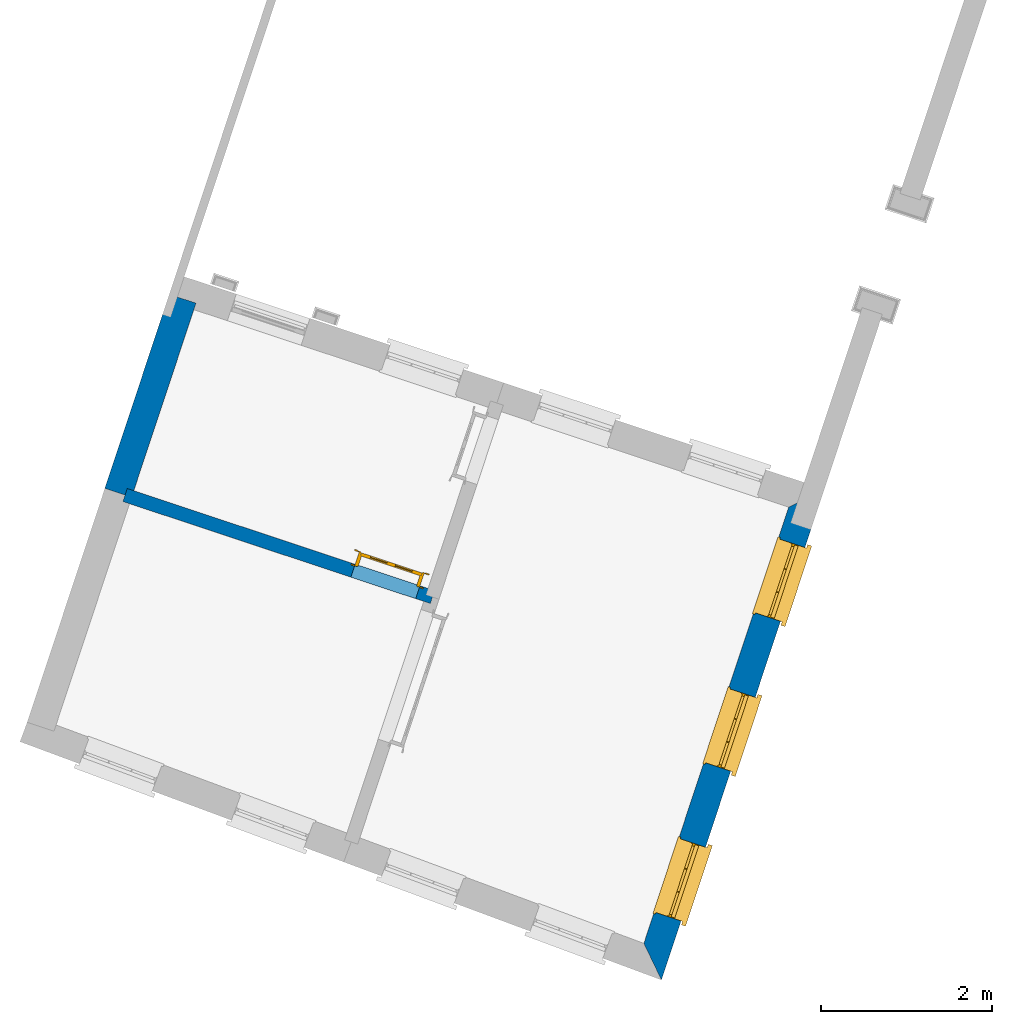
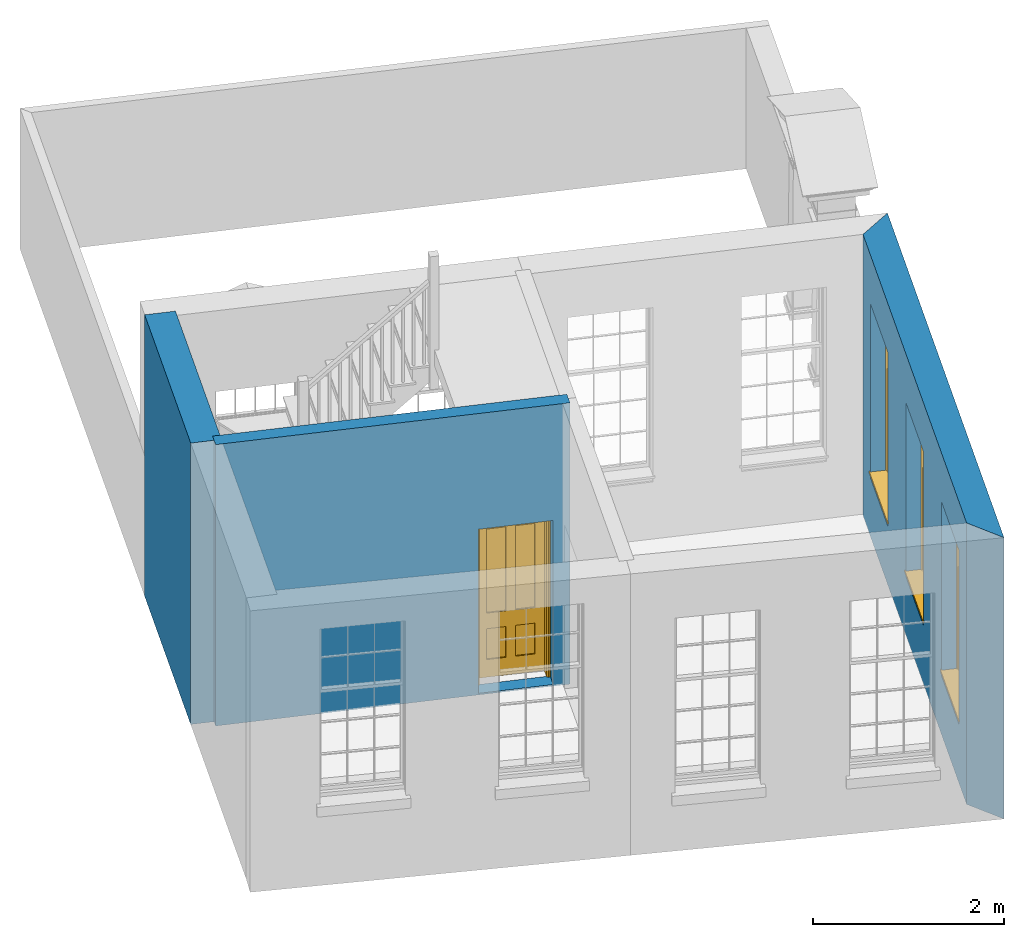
# One storey, part 3 of 6: 3 walls, 3 windows, 1 door, 4 openings.
"""IFC4 building model written with IfcOpenShell, lengths in metres."""

from ifc_helpers import new_model, si_unit, frame, origin, origin_with_axes, place, context, subcontext, project, spatial, polyline, outline, extrude, faceted_brep, source, transform, mapped, material, layer, layer_set, layer_usage, type_object, type_shapes, element, fill, save


model = new_model("IFC4")

# Units and contexts
model_context = context("Model", 3, world=origin_with_axes())
body_context = subcontext(model_context, "Body", "Model", "MODEL_VIEW")
ifc_project = project(units=[si_unit("PLANEANGLEUNIT", "RADIAN"), si_unit("MASSUNIT", "GRAM", prefix="KILO"), si_unit("FORCEUNIT", "NEWTON", prefix="KILO"), si_unit("LENGTHUNIT", "METRE"), si_unit("AREAUNIT", "SQUARE_METRE"), si_unit("VOLUMEUNIT", "CUBIC_METRE")], contexts=[model_context, model_context])

# Sites, building, storey
site_1_placement = place(None, origin_with_axes())
site_1 = spatial("IfcSite", under=ifc_project, at=site_1_placement, Name="Tamar")
site_2_placement = place(site_1_placement, origin_with_axes())
site_2 = spatial("IfcSite", under=site_1, at=site_2_placement, Name="Site plot-18", CompositionType="ELEMENT")
building_placement = place(None, origin_with_axes())
building = spatial("IfcBuilding", under=site_2, at=building_placement, Name="Building plot-18", CompositionType="ELEMENT")
storey_placement = place(None, frame((0.0, 0.0, 26.0), z_axis=(0.0, 0.0, 1.0), x_axis=(1.0, 0.0, 0.0)))
storey = spatial("IfcBuildingStorey", under=building, at=storey_placement, Name="plot-18 0", CompositionType="ELEMENT", Elevation=26.0)

# Wall, openings, windows
ifc_material_1 = material(Name="Masonry")
ifc_layer_1 = layer(ifc_material_1, 0.33, ventilated=False)
ifc_layer_set_1 = layer_set([ifc_layer_1], Name="exterior_0.08_0.25")
ifc_layer_usage_1 = layer_usage(ifc_layer_set_1, "AXIS2", "POSITIVE", -0.25)
wall_type_1 = type_object("IfcWallType", Name="exterior_0.08_0.25", PredefinedType="SOLIDWALL", material=ifc_layer_set_1)
wall_1_placement = place(storey_placement, frame((269.043337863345, 288.942822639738, 0.0), z_axis=(0.0, 0.0, 1.0), x_axis=(0.315038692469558, 0.949078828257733, 0.0)))
wall_1 = element("IfcWall", 1, at=wall_1_placement, inside=storey, type_object=wall_type_1, material=ifc_layer_usage_1, Name="exterior", context=body_context, shape_type="SweptSolid", body=[
    extrude(outline(polyline([(0.0828692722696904, 0.0799999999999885), (-0.258966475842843, -0.250000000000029), (5.79712578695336, -0.250000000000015), (5.46712578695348, 0.0800000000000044), (0.0828692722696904, 0.0799999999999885)])), origin_with_axes(), (0.0, 0.0, 1.0), 3.6),
])
opening_1_placement = place(wall_1_placement, frame((0.469520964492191, 0.0, 0.75)))
opening_1 = element("IfcOpeningElement", 2, at=opening_1_placement, cuts=wall_1, Name="My Opening", ObjectType="Opening", context=body_context, shape_type="SweptSolid", body=[
    extrude(outline(polyline([(0.0, -0.269999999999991), (0.910000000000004, -0.270000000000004), (0.909999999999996, 1.09999999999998), (-8.1601392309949e-15, 1.1), (0.0, -0.269999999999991)])), origin_with_axes(), (0.0, 0.0, 1.0), 2.23),
])
opening_2_placement = place(wall_1_placement, frame((2.31856289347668, 0.0, 0.75)))
opening_2 = element("IfcOpeningElement", 3, at=opening_2_placement, cuts=wall_1, Name="My Opening", ObjectType="Opening", context=body_context, shape_type="SweptSolid", body=[
    extrude(outline(polyline([(0.0, -0.270000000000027), (0.909999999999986, -0.269999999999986), (0.909999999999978, 1.1), (-7.99360577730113e-15, 1.09999999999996), (0.0, -0.270000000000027)])), origin_with_axes(), (0.0, 0.0, 1.0), 2.23),
])
opening_3_placement = place(wall_1_placement, frame((4.16760482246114, 0.0, 0.75)))
opening_3 = element("IfcOpeningElement", 4, at=opening_3_placement, cuts=wall_1, Name="My Opening", ObjectType="Opening", context=body_context, shape_type="SweptSolid", body=[
    extrude(outline(polyline([(0.0, -0.270000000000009), (0.910000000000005, -0.270000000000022), (0.909999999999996, 1.09999999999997), (-7.99360577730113e-15, 1.09999999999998), (0.0, -0.270000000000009)])), origin_with_axes(), (0.0, 0.0, 1.0), 2.23),
])
window_type = type_object("IfcWindowType", Name="sash_big_taller", PartitioningType="DOUBLE_PANEL_HORIZONTAL", PredefinedType="NOTDEFINED")
shared_shape_1 = source(origin(), body_context, "Body", "Brep", [
    faceted_brep([(0.033125, 0.145, 1.385209), (0.01, 0.145, 1.385209), (0.033125, 0.145, 1.786042), (0.876875, 0.145, 1.385209), (0.876875, 0.145, 1.786042), (0.9, 0.145, 1.385209), (0.876875, 0.145, 1.796042), (0.876875, 0.145, 2.196875), (0.9, 0.145, 2.22), (0.033125, 0.145, 2.196875), (0.033125, 0.145, 1.796042), (0.01, 0.145, 2.22), (0.876875, 0.115, 1.786042), (0.876875, 0.115, 1.385209), (0.9, 0.115, 1.347084), (0.033125, 0.115, 2.196875), (0.01, 0.115, 2.22), (0.033125, 0.115, 1.796042), (0.01, 0.115, 1.347084), (0.033125, 0.115, 1.385209), (0.033125, 0.115, 1.786042), (0.876875, 0.115, 2.196875), (0.876875, 0.115, 1.796042), (0.9, 0.115, 2.22), (0.033125, 0.145, 1.347084), (0.01, 0.145, 1.347084), (0.033125, 0.145, 0.94625), (0.876875, 0.145, 1.347084), (0.876875, 0.145, 0.94625), (0.9, 0.145, 1.347084), (0.876875, 0.145, 0.52625), (0.876875, 0.145, 0.125417), (0.9, 0.145, 0.077167), (0.033125, 0.145, 0.125417), (0.033125, 0.145, 0.52625), (0.01, 0.145, 0.077167), (-0.0425, 0.0, 0.01), (-0.0425, -0.05, 0.001667), (0.0, 0.0, 0.01), (0.9525, 0.0, 0.01), (0.91, 0.0, 0.01), (0.9525, -0.05, 0.001667), (-0.02, 0.33, 0.077167), (0.0, 0.33, 0.077167), (-0.02, 0.36, 0.077167), (0.0, 0.19, 0.077167), (0.01, 0.19, 0.077167), (0.91, 0.19, 0.077167), (0.91, 0.33, 0.077167), (0.9, 0.19, 0.077167), (0.93, 0.33, 0.077167), (0.93, 0.36, 0.077167), (0.01, 0.175, 1.385209), (0.9, 0.175, 1.385209), (0.876875, 0.175, 0.125417), (0.876875, 0.175, 0.52625), (0.9, 0.175, 0.077167), (0.876875, 0.175, 0.94625), (0.876875, 0.175, 1.347084), (0.033125, 0.175, 0.125417), (0.01, 0.175, 0.077167), (0.033125, 0.175, 0.52625), (0.033125, 0.175, 1.347084), (0.033125, 0.175, 0.94625), (-0.02, 0.33, 0.052167), (-0.02, 0.36, 0.052167), (0.93, 0.36, 0.052167), (0.93, 0.33, 0.052167), (0.91, 0.33, 0.052167), (0.0, 0.33, 0.052167), (0.91, 0.1, 0.026667), (0.0, 0.1, 0.026667), (-0.0425, -0.05, -0.123333), (0.9525, -0.05, -0.123333), (-0.0425, 0.0, -0.123333), (0.9525, 0.0, -0.123333), (0.01, 0.19, 2.22), (0.9, 0.19, 2.22), (0.0, 0.19, 2.23), (0.91, 0.19, 2.23), (0.01, 0.1, 0.077167), (0.9, 0.1, 0.077167), (0.592292, 0.145, 0.125417), (0.592292, 0.175, 0.125417), (0.317708, 0.175, 0.125417), (0.317708, 0.145, 0.125417), (0.592292, 0.145, 0.53625), (0.317708, 0.145, 0.53625), (0.317708, 0.145, 0.52625), (0.592292, 0.145, 0.52625), (0.592292, 0.175, 0.53625), (0.317708, 0.175, 0.53625), (0.592292, 0.115, 1.796042), (0.592292, 0.145, 1.796042), (0.317708, 0.145, 1.796042), (0.317708, 0.115, 1.796042), (0.317708, 0.115, 1.786042), (0.592292, 0.115, 1.786042), (0.317708, 0.145, 1.786042), (0.592292, 0.145, 1.786042), (0.602292, 0.115, 1.786042), (0.592292, 0.115, 1.385209), (0.602292, 0.115, 1.385209), (0.602292, 0.145, 1.385209), (0.592292, 0.145, 1.385209), (0.602292, 0.145, 1.786042), (0.876875, 0.145, 0.53625), (0.876875, 0.175, 0.53625), (0.602292, 0.175, 0.53625), (0.602292, 0.145, 0.53625), (0.317708, 0.175, 0.52625), (0.307708, 0.175, 0.125417), (0.307708, 0.175, 0.52625), (0.602292, 0.175, 0.52625), (0.602292, 0.175, 0.125417), (0.592292, 0.175, 0.52625), (0.307708, 0.175, 0.53625), (0.033125, 0.175, 0.53625), (0.317708, 0.175, 1.347084), (0.317708, 0.175, 0.94625), (0.307708, 0.175, 0.94625), (0.307708, 0.175, 1.347084), (0.602292, 0.175, 1.347084), (0.602292, 0.175, 0.94625), (0.592292, 0.175, 0.94625), (0.592292, 0.175, 1.347084), (0.307708, 0.145, 0.52625), (0.307708, 0.145, 0.125417), (0.307708, 0.145, 0.53625), (0.033125, 0.145, 0.53625), (0.307708, 0.145, 1.347084), (0.307708, 0.145, 0.94625), (0.592292, 0.145, 1.347084), (0.592292, 0.145, 0.94625), (0.317708, 0.145, 0.94625), (0.317708, 0.145, 1.347084), (0.602292, 0.145, 0.94625), (0.602292, 0.145, 1.347084), (0.602292, 0.145, 0.52625), (0.602292, 0.145, 0.125417), (0.307708, 0.115, 1.796042), (0.307708, 0.115, 1.786042), (0.307708, 0.115, 1.385209), (0.317708, 0.115, 1.385209), (0.317708, 0.115, 2.196875), (0.307708, 0.115, 2.196875), (0.602292, 0.115, 2.196875), (0.592292, 0.115, 2.196875), (0.602292, 0.115, 1.796042), (0.602292, 0.145, 1.796042), (0.307708, 0.145, 1.796042), (0.307708, 0.145, 2.196875), (0.317708, 0.145, 2.196875), (0.592292, 0.145, 2.196875), (0.602292, 0.145, 2.196875), (0.307708, 0.145, 1.786042), (0.317708, 0.145, 1.385209), (0.307708, 0.145, 1.385209), (0.876875, 0.175, 0.93625), (0.033125, 0.175, 0.93625), (0.033125, 0.145, 0.93625), (0.876875, 0.145, 0.93625), (0.91, 0.1, 2.23), (0.9, 0.1, 2.22), (0.01, 0.1, 2.22), (0.0, 0.1, 2.23), (0.91, 0.0, 0.0), (0.0, 0.0, 0.0), (0.91, 0.33, 0.0), (0.0, 0.33, 0.0), (0.317708, 0.145, 0.93625), (0.592292, 0.145, 0.93625), (0.317708, 0.175, 0.93625), (0.307708, 0.175, 0.93625), (0.602292, 0.175, 0.93625), (0.592292, 0.175, 0.93625), (0.307708, 0.145, 0.93625), (0.602292, 0.145, 0.93625)], [[[0, 1, 2]], [[3, 4, 5]], [[6, 7, 8]], [[9, 10, 11]], [[12, 13, 14]], [[15, 16, 17]], [[18, 19, 20]], [[21, 22, 23]], [[24, 25, 26]], [[27, 28, 29]], [[30, 31, 32]], [[33, 34, 35]], [[14, 27, 29]], [[25, 24, 18]], [[36, 37, 38]], [[39, 40, 41]], [[42, 43, 44]], [[45, 46, 43]], [[47, 48, 49]], [[50, 51, 48]], [[1, 0, 52]], [[5, 53, 3]], [[54, 55, 56]], [[57, 58, 53]], [[59, 60, 61]], [[62, 63, 52]], [[48, 43, 46, 49]], [[51, 44, 43, 48]], [[64, 42, 44, 65]], [[65, 44, 51, 66]], [[66, 51, 50, 67]], [[65, 66, 68, 69]], [[60, 56, 49, 46]], [[70, 71, 38, 40]], [[37, 41, 40, 38]], [[37, 72, 73, 41]], [[74, 75, 73, 72]], [[8, 11, 76, 77]], [[76, 78, 79, 77]], [[32, 35, 80, 81]], [[81, 80, 71, 70]], [[82, 83, 84, 85]], [[86, 87, 88, 89]], [[86, 90, 91, 87]], [[92, 93, 94, 95]], [[92, 95, 96, 97]], [[96, 98, 99, 97]], [[100, 97, 101, 102]], [[103, 104, 99, 105]], [[97, 99, 104, 101]], [[102, 103, 105, 100]], [[106, 107, 108, 109]], [[110, 84, 111, 112]], [[113, 114, 83, 115]], [[116, 112, 61, 117]], [[90, 115, 110, 91]], [[118, 119, 120, 121]], [[122, 123, 124, 125]], [[113, 108, 107, 55]], [[126, 112, 111, 127]], [[34, 61, 112, 126]], [[89, 115, 83, 82]], [[88, 110, 115, 89]], [[85, 84, 110, 88]], [[128, 116, 117, 129]], [[130, 121, 120, 131]], [[132, 125, 124, 133]], [[134, 119, 118, 135]], [[136, 123, 122, 137]], [[138, 113, 55, 30]], [[139, 114, 113, 138]], [[138, 30, 106, 109]], [[88, 126, 127, 85]], [[138, 89, 82, 139]], [[137, 132, 133, 136]], [[128, 129, 34, 126]], [[135, 130, 131, 134]], [[140, 17, 20, 141]], [[96, 141, 142, 143]], [[144, 145, 140, 95]], [[146, 147, 92, 148]], [[100, 12, 22, 148]], [[149, 6, 4, 105]], [[94, 150, 151, 152]], [[149, 93, 153, 154]], [[99, 98, 94, 93]], [[155, 2, 10, 150]], [[156, 157, 155, 98]], [[141, 155, 157, 142]], [[20, 2, 155, 141]], [[143, 156, 98, 96]], [[140, 150, 10, 17]], [[145, 151, 150, 140]], [[147, 153, 93, 92]], [[95, 94, 152, 144]], [[22, 6, 149, 148]], [[148, 149, 154, 146]], [[100, 105, 4, 12]], [[109, 86, 89, 138]], [[108, 113, 115, 90]], [[91, 110, 112, 116]], [[87, 128, 126, 88]], [[97, 100, 148, 92]], [[141, 96, 95, 140]], [[98, 155, 150, 94]], [[105, 99, 93, 149]], [[143, 101, 104, 156]], [[135, 118, 125, 132]], [[144, 152, 153, 147]], [[127, 111, 59, 33]], [[15, 9, 151, 145]], [[146, 154, 7, 21]], [[31, 54, 114, 139]], [[36, 74, 72, 37]], [[39, 41, 73, 75]], [[18, 14, 101, 143]], [[23, 16, 144, 147]], [[83, 56, 60, 84]], [[52, 53, 125, 118]], [[53, 52, 156, 104]], [[11, 8, 153, 152]], [[14, 18, 135, 132]], [[2, 1, 11, 10]], [[8, 5, 4, 6]], [[57, 53, 56, 158]], [[60, 52, 63, 159]], [[26, 25, 35, 160]], [[32, 29, 28, 161]], [[14, 23, 22, 12]], [[18, 20, 17, 16]], [[19, 0, 2, 20]], [[17, 10, 9, 15]], [[12, 4, 3, 13]], [[21, 7, 6, 22]], [[27, 58, 57, 28]], [[30, 55, 54, 31]], [[33, 59, 61, 34]], [[26, 63, 62, 24]], [[5, 8, 77, 53]], [[76, 11, 1, 52]], [[46, 45, 78, 76]], [[49, 77, 79, 47]], [[70, 162, 163, 81]], [[71, 80, 164, 165]], [[19, 142, 157, 0]], [[102, 13, 3, 103]], [[121, 130, 24, 62]], [[29, 32, 81, 14]], [[80, 35, 25, 18]], [[60, 46, 76, 52]], [[77, 49, 56, 53]], [[23, 14, 81, 163]], [[16, 164, 80, 18]], [[35, 85, 127]], [[127, 33, 35]], [[139, 82, 32]], [[32, 31, 139]], [[32, 82, 85, 35]], [[102, 101, 14]], [[14, 13, 102]], [[18, 143, 142]], [[142, 19, 18]], [[146, 21, 23]], [[23, 147, 146]], [[16, 15, 145]], [[145, 144, 16]], [[11, 152, 151]], [[151, 9, 11]], [[154, 153, 8]], [[8, 7, 154]], [[23, 163, 164, 16]], [[162, 165, 164, 163]], [[52, 118, 121]], [[121, 62, 52]], [[125, 53, 122]], [[58, 122, 53]], [[27, 137, 122, 58]], [[56, 83, 114]], [[114, 54, 56]], [[111, 84, 60]], [[60, 59, 111]], [[137, 27, 14]], [[14, 132, 137]], [[130, 135, 18]], [[18, 24, 130]], [[157, 156, 52]], [[52, 0, 157]], [[103, 3, 53]], [[53, 104, 103]], [[79, 78, 165, 162]], [[78, 45, 71, 165]], [[162, 70, 47, 79]], [[166, 75, 74, 167]], [[68, 66, 67]], [[48, 68, 67, 50]], [[69, 64, 65]], [[42, 64, 69, 43]], [[69, 68, 168, 169]], [[70, 68, 48, 47]], [[166, 168, 68, 70]], [[43, 69, 71, 45]], [[69, 169, 167, 71]], [[168, 166, 167, 169]], [[38, 167, 74, 36]], [[71, 167, 38]], [[39, 75, 166, 40]], [[40, 166, 70]], [[133, 134, 170, 171]], [[133, 124, 119, 134]], [[28, 57, 123, 136]], [[172, 91, 116, 173]], [[174, 108, 90, 175]], [[120, 173, 159, 63]], [[124, 175, 172, 119]], [[174, 123, 57, 158]], [[176, 173, 116, 128]], [[160, 159, 173, 176]], [[171, 175, 90, 86]], [[170, 172, 175, 171]], [[87, 91, 172, 170]], [[131, 120, 63, 26]], [[177, 174, 158, 161]], [[109, 108, 174, 177]], [[177, 161, 28, 136]], [[170, 176, 128, 87]], [[177, 171, 86, 109]], [[131, 26, 160, 176]], [[136, 133, 171, 177]], [[123, 174, 175, 124]], [[119, 172, 173, 120]], [[134, 131, 176, 170]], [[129, 117, 159, 160]], [[161, 158, 107, 106]], [[35, 34, 129]], [[35, 129, 160]], [[32, 106, 30]], [[32, 161, 106]], [[56, 55, 107]], [[56, 107, 158]], [[60, 117, 61]], [[60, 159, 117]]]),
])
type_shapes(window_type, [shared_shape_1])
window_1_placement = place(storey_placement, frame((269.447506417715, 289.303374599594, 0.75), z_axis=(0.0, 0.0, 1.0), x_axis=(0.286685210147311, 0.863661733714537, 0.0)))
window_1 = element("IfcWindow", 5, at=window_1_placement, inside=storey, type_object=window_type, Name="living street window", OverallHeight=2.23, OverallWidth=0.91, context=body_context, shape_type="MappedRepresentation", body=[
    mapped(shared_shape_1, transform((0.0, 0.0, 0.0), scale=1.0)),
])
fill(opening_1, window_1)
window_2_placement = place(storey_placement, frame((270.030026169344, 291.058261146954, 0.75), z_axis=(0.0, 0.0, 1.0), x_axis=(0.286685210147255, 0.863661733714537, 0.0)))
window_2 = element("IfcWindow", 6, at=window_2_placement, inside=storey, type_object=window_type, Name="living street window", OverallHeight=2.23, OverallWidth=0.91, context=body_context, shape_type="MappedRepresentation", body=[
    mapped(shared_shape_1, transform((0.0, 0.0, 0.0), scale=1.0)),
])
fill(opening_2, window_2)
window_3_placement = place(storey_placement, frame((270.612545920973, 292.813147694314, 0.75), z_axis=(0.0, 0.0, 1.0), x_axis=(0.286685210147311, 0.863661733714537, 0.0)))
window_3 = element("IfcWindow", 7, at=window_3_placement, inside=storey, type_object=window_type, Name="living street window", OverallHeight=2.23, OverallWidth=0.91, context=body_context, shape_type="MappedRepresentation", body=[
    mapped(shared_shape_1, transform((0.0, 0.0, 0.0), scale=1.0)),
])
fill(opening_3, window_3)

# Wall
ifc_material_2 = material(Name="Masonry")
ifc_layer_2 = layer(ifc_material_2, 0.33, ventilated=False)
ifc_layer_set_2 = layer_set([ifc_layer_2], Name="party_0.08_0.25")
ifc_layer_usage_2 = layer_usage(ifc_layer_set_2, "AXIS2", "POSITIVE", -0.25)
wall_type_2 = type_object("IfcWallType", Name="party_0.08_0.25", PredefinedType="SOLIDWALL", material=ifc_layer_set_2)
wall_2_placement = place(storey_placement, frame((263.672805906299, 296.57027247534, 0.0), z_axis=(0.0, 0.0, 1.0), x_axis=(-0.315038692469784, -0.949078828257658, 0.0)))
element("IfcWall", 8, at=wall_2_placement, inside=storey, type_object=wall_type_2, material=ifc_layer_usage_2, Name="party", context=body_context, shape_type="SweptSolid", body=[
    extrude(outline(polyline([(-2.37468231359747e-14, 0.0799999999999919), (-3.15150258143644e-14, -0.249999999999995), (2.39467325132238, -0.249999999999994), (2.39467325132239, 0.0799999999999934), (-2.37468231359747e-14, 0.0799999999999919)])), origin_with_axes(), (0.0, 0.0, 1.0), 3.6),
])

# Wall, opening, door
ifc_material_3 = material(Name="Masonry")
ifc_layer_3 = layer(ifc_material_3, 0.16, ventilated=False)
ifc_layer_set_3 = layer_set([ifc_layer_3], Name="interior_0.08_0.08")
ifc_layer_usage_3 = layer_usage(ifc_layer_set_3, "AXIS2", "POSITIVE", -0.08)
wall_type_3 = type_object("IfcWallType", Name="interior_0.08_0.08", PredefinedType="SOLIDWALL", material=ifc_layer_set_3)
wall_3_placement = place(storey_placement, frame((262.91839117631, 294.297538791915, 0.0), z_axis=(0.0, 0.0, 1.0), x_axis=(0.949078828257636, -0.315038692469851, 0.0)))
wall_3 = element("IfcWall", 9, at=wall_3_placement, inside=storey, type_object=wall_type_3, material=ifc_layer_usage_3, Name="interior", context=body_context, shape_type="SweptSolid", body=[
    extrude(outline(polyline([(2.46784950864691e-14, 0.0800000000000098), (-2.47415829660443e-14, -0.0800000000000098), (3.79244306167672, -0.0800000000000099), (3.79244306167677, 0.0800000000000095), (2.46784950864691e-14, 0.0800000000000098)])), origin_with_axes(), (0.0, 0.0, 1.0), 3.6),
])
opening_4_placement = place(wall_3_placement, frame((2.81244306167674, 0.0, 0.0199999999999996)))
opening_4 = element("IfcOpeningElement", 10, at=opening_4_placement, cuts=wall_3, Name="My Opening", ObjectType="Opening", context=body_context, shape_type="SweptSolid", body=[
    extrude(outline(polyline([(0.0, -0.0999999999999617), (0.800000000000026, -0.0999999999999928), (0.800000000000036, 1.09999999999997), (1.06581410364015e-14, 1.10000000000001), (0.0, -0.0999999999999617)])), origin_with_axes(), (0.0, 0.0, 1.0), 2.1),
])
door_type = type_object("IfcDoorType", Name="door_inside", OperationType="SINGLE_SWING_LEFT", PredefinedType="NOTDEFINED")
shared_shape_2 = source(origin(), body_context, "Body", "Brep", [
    faceted_brep([(0.773, 0.33, 1.895), (0.66, 0.33, 1.895), (0.66, 0.33, 2.073), (0.773, 0.33, 2.073), (0.773, 0.33, 0.82), (0.66, 0.33, 0.82), (0.45, 0.33, 1.895), (0.45, 0.33, 2.073), (0.773, 0.33, 0.62), (0.66, 0.33, 0.62), (0.66, 0.315, 0.82), (0.66, 0.315, 1.895), (0.45, 0.315, 1.895), (0.35, 0.33, 1.895), (0.35, 0.33, 2.073), (0.773, 0.33, 0.225), (0.66, 0.33, 0.225), (0.45, 0.33, 0.62), (0.45, 0.33, 0.82), (0.45, 0.315, 0.82), (0.35, 0.33, 0.82), (0.14, 0.33, 2.073), (0.14, 0.33, 1.895), (0.773, 0.33, 0.0), (0.66, 0.33, 0.0), (0.66, 0.315, 0.225), (0.66, 0.315, 0.62), (0.45, 0.315, 0.62), (0.35, 0.33, 0.62), (0.35, 0.315, 0.82), (0.35, 0.315, 1.895), (0.14, 0.315, 1.895), (0.027, 0.33, 2.073), (0.027, 0.33, 1.895), (0.773, 0.292, 0.0), (0.66, 0.292, 0.0), (0.45, 0.33, 0.0), (0.45, 0.33, 0.225), (0.45, 0.315, 0.225), (0.35, 0.33, 0.225), (0.14, 0.33, 0.82), (0.14, 0.33, 0.62), (0.14, 0.315, 0.82), (0.027, 0.33, 0.82), (0.773, 0.292, 0.225), (0.66, 0.292, 0.225), (0.45, 0.292, 0.0), (0.35, 0.33, 0.0), (0.35, 0.315, 0.225), (0.35, 0.315, 0.62), (0.14, 0.315, 0.62), (0.027, 0.33, 0.62), (0.773, 0.292, 0.62), (0.66, 0.292, 0.62), (0.45, 0.292, 0.225), (0.35, 0.292, 0.0), (0.14, 0.33, 0.225), (0.14, 0.33, 0.0), (0.14, 0.315, 0.225), (0.027, 0.33, 0.225), (0.773, 0.292, 0.82), (0.66, 0.292, 0.82), (0.66, 0.307, 0.62), (0.66, 0.307, 0.225), (0.45, 0.307, 0.225), (0.35, 0.292, 0.225), (0.14, 0.292, 0.0), (0.027, 0.33, 0.0), (0.773, 0.292, 1.895), (0.66, 0.292, 1.895), (0.45, 0.292, 0.62), (0.45, 0.292, 0.82), (0.45, 0.307, 0.62), (0.35, 0.292, 0.62), (0.14, 0.292, 0.225), (0.027, 0.292, 0.0), (0.773, 0.292, 2.073), (0.66, 0.292, 2.073), (0.66, 0.307, 1.895), (0.66, 0.307, 0.82), (0.45, 0.307, 0.82), (0.35, 0.292, 0.82), (0.35, 0.307, 0.62), (0.35, 0.307, 0.225), (0.14, 0.307, 0.225), (0.027, 0.292, 0.225), (0.45, 0.292, 1.895), (0.45, 0.292, 2.073), (0.45, 0.307, 1.895), (0.35, 0.292, 1.895), (0.14, 0.292, 0.82), (0.14, 0.292, 0.62), (0.14, 0.307, 0.62), (0.027, 0.292, 0.62), (0.35, 0.292, 2.073), (0.35, 0.307, 1.895), (0.35, 0.307, 0.82), (0.14, 0.307, 0.82), (0.027, 0.292, 0.82), (0.14, 0.292, 2.073), (0.14, 0.292, 1.895), (0.14, 0.307, 1.895), (0.027, 0.292, 1.895), (0.027, 0.292, 2.073), (0.02, 0.335, 0.0), (0.005, 0.34, 0.0), (0.005, 0.34, 2.095), (0.02, 0.335, 2.08), (0.02, 0.33, 0.0), (0.0, 0.335, 0.0), (0.0, 0.335, 2.1), (0.795, 0.34, 2.095), (0.78, 0.335, 2.08), (0.02, 0.33, 2.08), (0.0, 0.33, 0.0), (-0.032, 0.345, 0.0), (-0.032, 0.345, 2.132), (0.8, 0.335, 2.1), (0.795, 0.34, 0.0), (0.78, 0.335, 0.0), (0.78, 0.33, 2.08), (0.04, 0.29, 0.0), (0.025, 0.29, 0.0), (0.025, 0.29, 2.075), (0.04, 0.29, 2.06), (-0.04, 0.34, 0.0), (-0.04, 0.34, 2.14), (0.832, 0.345, 2.132), (0.8, 0.335, 0.0), (0.78, 0.33, 0.0), (0.8, 0.33, 0.0), (0.86, 0.33, 0.0), (0.86, 0.33, 2.16), (0.8, 0.33, 2.1), (-0.06, 0.33, 2.16), (0.0, 0.33, 2.1), (-0.06, 0.33, 0.0), (-0.04, 0.345, 0.0), (-0.04, 0.345, 2.14), (0.84, 0.34, 2.14), (0.832, 0.345, 0.0), (0.84, 0.34, 0.0), (0.86, 0.345, 0.0), (0.86, 0.345, 2.16), (-0.06, 0.345, 2.16), (-0.06, 0.345, 0.0), (0.84, 0.345, 0.0), (0.84, 0.345, 2.14), (-0.025, 0.155, 0.0), (-0.025, 0.16, 0.0), (-0.025, 0.16, 2.125), (-0.025, 0.155, 2.125), (-0.017, 0.155, 0.0), (-0.017, 0.155, 2.117), (0.825, 0.16, 2.125), (0.825, 0.155, 2.125), (0.825, 0.155, 0.0), (0.845, 0.155, 0.0), (-0.045, 0.155, 2.145), (-0.045, 0.155, 0.0), (0.845, 0.155, 2.145), (0.015, 0.165, 0.0), (0.015, 0.165, 2.085), (0.817, 0.155, 2.117), (0.825, 0.16, 0.0), (0.845, 0.17, 0.0), (0.845, 0.17, 2.145), (-0.045, 0.17, 2.145), (-0.045, 0.17, 0.0), (0.02, 0.16, 0.0), (0.02, 0.16, 2.08), (0.785, 0.165, 2.085), (0.817, 0.155, 0.0), (0.8, 0.17, 0.0), (0.8, 0.17, 2.1), (0.0, 0.17, 2.1), (0.0, 0.17, 0.0), (0.035, 0.165, 0.0), (0.035, 0.165, 2.065), (0.78, 0.16, 2.08), (0.785, 0.165, 0.0), (0.775, 0.29, 2.075), (0.76, 0.29, 2.06), (0.035, 0.17, 2.065), (0.035, 0.17, 0.0), (0.765, 0.165, 2.065), (0.78, 0.16, 0.0), (0.765, 0.17, 0.0), (0.765, 0.17, 2.065), (0.765, 0.165, 0.0), (0.04, 0.17, 2.06), (0.04, 0.17, 0.0), (0.76, 0.17, 2.06), (0.76, 0.17, 0.0), (0.76, 0.29, 0.0), (0.775, 0.29, 0.0), (0.025, 0.33, 0.0), (0.025, 0.33, 2.075), (0.775, 0.33, 0.0), (0.775, 0.33, 2.075)], [[[0, 1, 2, 3]], [[1, 0, 4, 5]], [[1, 6, 7, 2]], [[8, 9, 5, 4]], [[1, 5, 10, 11]], [[6, 1, 11, 12]], [[6, 13, 14, 7]], [[15, 16, 9, 8]], [[9, 17, 18, 5]], [[5, 18, 19, 10]], [[10, 19, 12, 11]], [[18, 6, 12, 19]], [[18, 20, 13, 6]], [[21, 14, 13, 22]], [[23, 24, 16, 15]], [[9, 16, 25, 26]], [[17, 9, 26, 27]], [[17, 28, 20, 18]], [[13, 20, 29, 30]], [[22, 13, 30, 31]], [[32, 21, 22, 33]], [[34, 35, 24, 23]], [[24, 36, 37, 16]], [[16, 37, 38, 25]], [[25, 38, 27, 26]], [[37, 17, 27, 38]], [[37, 39, 28, 17]], [[40, 20, 28, 41]], [[20, 40, 42, 29]], [[31, 30, 29, 42]], [[40, 22, 31, 42]], [[33, 22, 40, 43]], [[35, 34, 44, 45]], [[35, 46, 36, 24]], [[36, 47, 39, 37]], [[28, 39, 48, 49]], [[41, 28, 49, 50]], [[43, 40, 41, 51]], [[45, 44, 52, 53]], [[46, 35, 45, 54]], [[46, 55, 47, 36]], [[56, 39, 47, 57]], [[39, 56, 58, 48]], [[50, 49, 48, 58]], [[56, 41, 50, 58]], [[51, 41, 56, 59]], [[53, 52, 60, 61]], [[45, 53, 62, 63]], [[54, 45, 63, 64]], [[55, 46, 54, 65]], [[55, 66, 57, 47]], [[59, 56, 57, 67]], [[61, 60, 68, 69]], [[70, 53, 61, 71]], [[53, 70, 72, 62]], [[72, 64, 63, 62]], [[70, 54, 64, 72]], [[65, 54, 70, 73]], [[65, 74, 66, 55]], [[67, 57, 66, 75]], [[69, 68, 76, 77]], [[61, 69, 78, 79]], [[71, 61, 79, 80]], [[73, 70, 71, 81]], [[65, 73, 82, 83]], [[74, 65, 83, 84]], [[74, 85, 75, 66]], [[86, 69, 77, 87]], [[69, 86, 88, 78]], [[88, 80, 79, 78]], [[86, 71, 80, 88]], [[81, 71, 86, 89]], [[73, 81, 90, 91]], [[73, 91, 92, 82]], [[83, 82, 92, 84]], [[91, 74, 84, 92]], [[91, 93, 85, 74]], [[89, 86, 87, 94]], [[81, 89, 95, 96]], [[90, 81, 96, 97]], [[90, 98, 93, 91]], [[94, 99, 100, 89]], [[89, 100, 101, 95]], [[101, 97, 96, 95]], [[100, 90, 97, 101]], [[100, 102, 98, 90]], [[99, 103, 102, 100]], [[32, 103, 99, 21]], [[102, 103, 32, 33]], [[98, 102, 33, 43]], [[21, 99, 94, 14]], [[94, 87, 7, 14]], [[7, 87, 77, 2]], [[76, 3, 2, 77]], [[43, 51, 93, 98]], [[51, 59, 85, 93]], [[67, 75, 85, 59]], [[34, 23, 15, 44]], [[44, 15, 8, 52]], [[52, 8, 4, 60]], [[0, 68, 60, 4]], [[0, 3, 76, 68]], [[104, 105, 106, 107]], [[104, 108, 109, 105]], [[105, 109, 110, 106]], [[107, 106, 111, 112]], [[107, 113, 108, 104]], [[114, 109, 108]], [[109, 115, 116, 110]], [[106, 110, 117, 111]], [[112, 111, 118, 119]], [[113, 107, 112, 120]], [[121, 122, 123, 124]], [[115, 109, 114, 125]], [[115, 125, 126, 116]], [[110, 116, 127, 117]], [[111, 117, 128, 118]], [[118, 128, 129, 119]], [[120, 112, 119, 129]], [[130, 129, 128]], [[130, 131, 132, 133]], [[133, 132, 134, 135]], [[135, 134, 136, 114]], [[136, 125, 114]], [[125, 137, 138, 126]], [[116, 126, 139, 127]], [[117, 127, 140, 128]], [[141, 130, 128, 140]], [[131, 130, 141]], [[131, 142, 143, 132]], [[132, 143, 144, 134]], [[134, 144, 145, 136]], [[137, 125, 136, 145]], [[143, 142, 146]], [[143, 146, 147]], [[137, 145, 144]], [[143, 147, 138]], [[138, 137, 144]], [[143, 138, 144]], [[126, 138, 147, 139]], [[127, 139, 141, 140]], [[142, 131, 141, 146]], [[139, 147, 146, 141]], [[148, 149, 150, 151]], [[149, 152, 153, 150]], [[151, 150, 154, 155]], [[155, 156, 157]], [[158, 159, 148]], [[158, 148, 151]], [[155, 157, 160]], [[158, 151, 155]], [[155, 160, 158]], [[152, 161, 162, 153]], [[150, 153, 163, 154]], [[155, 154, 164, 156]], [[156, 164, 165, 157]], [[157, 165, 166, 160]], [[160, 166, 167, 158]], [[158, 167, 168, 159]], [[161, 169, 170, 162]], [[153, 162, 171, 163]], [[154, 163, 172, 164]], [[165, 164, 173]], [[165, 173, 174, 166]], [[166, 174, 175, 167]], [[167, 175, 176, 168]], [[169, 177, 178, 170]], [[162, 170, 179, 171]], [[163, 171, 180, 172]], [[172, 180, 173, 164]], [[124, 123, 181, 182]], [[183, 178, 177, 184]], [[170, 178, 185, 179]], [[171, 179, 186, 180]], [[187, 173, 180]], [[185, 188, 187, 189]], [[188, 185, 178, 183]], [[179, 185, 189, 186]], [[189, 187, 180, 186]], [[190, 183, 184, 191]], [[192, 188, 183, 190]], [[191, 184, 122, 121]], [[124, 190, 191, 121]], [[193, 187, 188, 192]], [[182, 192, 190, 124]], [[184, 176, 122]], [[194, 195, 187, 193]], [[192, 182, 194, 193]], [[161, 176, 184]], [[114, 108, 122, 176]], [[173, 187, 195]], [[152, 149, 176, 161]], [[169, 161, 184, 177]], [[196, 122, 108]], [[176, 175, 135, 114]], [[173, 195, 129, 130]], [[176, 149, 168]], [[123, 122, 196, 197]], [[196, 108, 113, 197]], [[175, 174, 133, 135]], [[198, 129, 195]], [[133, 174, 173, 130]], [[159, 168, 149, 148]], [[181, 123, 197, 199]], [[197, 113, 120, 199]], [[199, 120, 129, 198]], [[195, 181, 199, 198]], [[195, 194, 182, 181]]]),
])
type_shapes(door_type, [shared_shape_2])
door_placement = place(storey_placement, frame((265.556117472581, 293.316602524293, 0.0199999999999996), z_axis=(0.0, 0.0, 1.0), x_axis=(0.759263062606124, -0.252030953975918, 0.0)))
door = element("IfcDoor", 11, at=door_placement, inside=storey, type_object=door_type, Name="kitchen inside door", OverallHeight=2.1, OverallWidth=0.8, context=body_context, shape_type="MappedRepresentation", body=[
    mapped(shared_shape_2, transform((0.0, 0.0, 0.0), scale=1.0)),
])
fill(opening_4, door)

save(model, "model.ifc")
